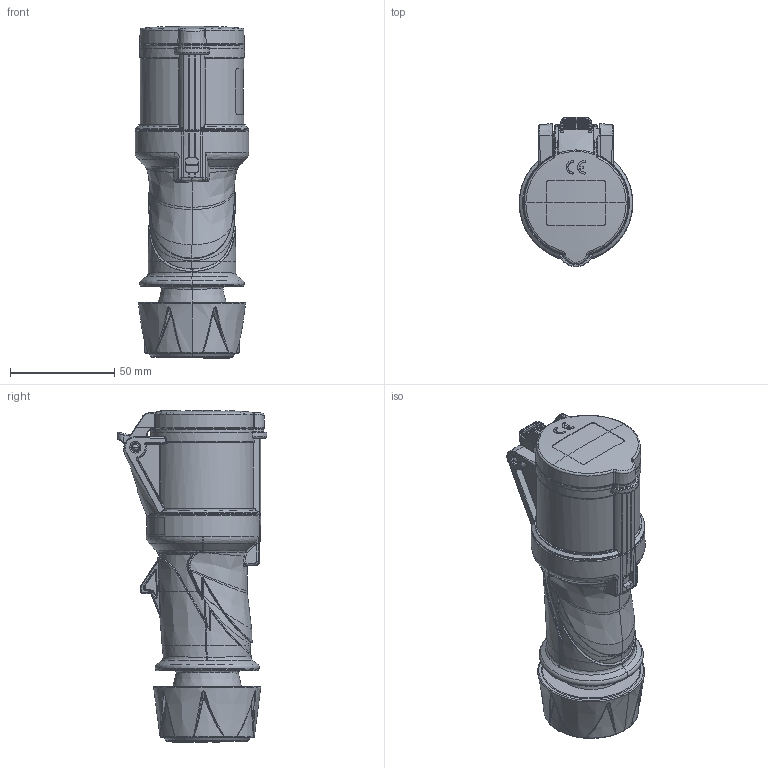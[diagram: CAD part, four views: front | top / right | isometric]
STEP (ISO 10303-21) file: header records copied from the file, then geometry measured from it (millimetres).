
FILE_DESCRIPTION((''),'2;1');
FILE_NAME('14521','2021-03-03T12:18:19',('fries'),('MENNEKES'),'CREO PARAMETRIC BY PTC INC, 2019080','CREO PARAMETRIC BY PTC INC, 2019080','');
FILE_SCHEMA(('AUTOMOTIVE_DESIGN { 1 0 10303 214 1 1 1 1 }'));
Length unit declared in the file: millimetre
Products named in the file (1): 14521
Bounding box: 54.6 x 71.79 x 159.33 mm (x, y, z)
Volume: 276830.3 mm3; surface area: 37943 mm2
Topology: 1 solids, 1 shells, 1683 faces, 4075 edges, 2412 vertices
Faces by surface type: bspline 912, plane 258, cylinder 219, torus 103, extrusion 98, cone 59, sphere 34
Entity records: 114467 total; most frequent: CARTESIAN_POINT 55578, ORIENTED_EDGE 8128, PRESENTATION_STYLE_ASSIGNMENT 5423, DIRECTION 4558, STYLED_ITEM 4156, CURVE_STYLE 4155, EDGE_CURVE 4064, VERTEX_POINT 2412
